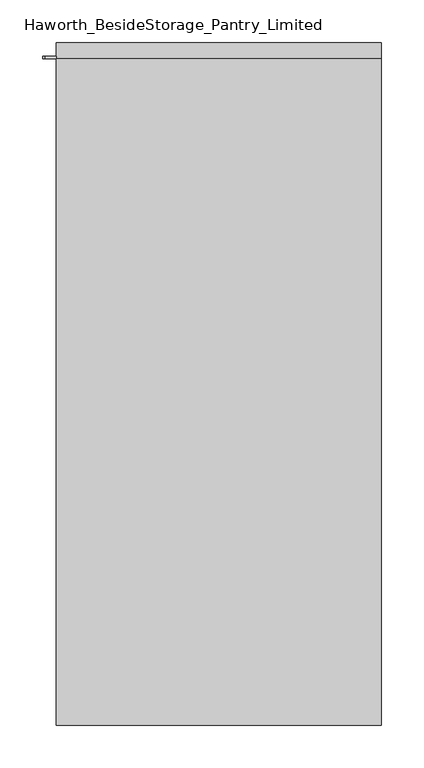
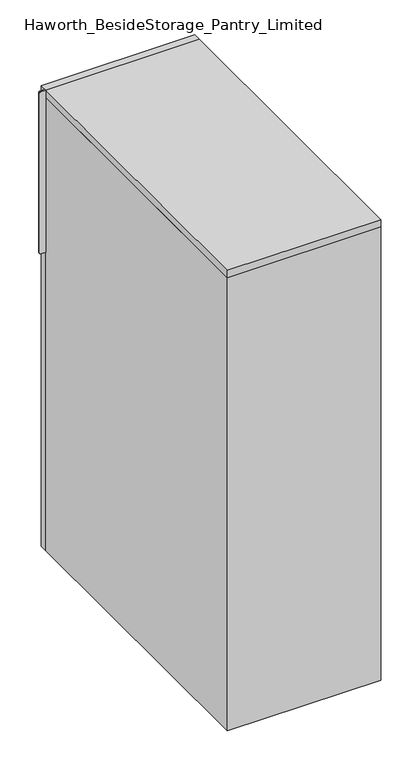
"""IFC4 building model written with IfcOpenShell, lengths in millimetres: furniture geometry, Haworth_BesideStorage_Pantry_Limited : 31.5d 15w 48h."""

from ifc_helpers import new_model, si_unit, point, frame, frame_2d, origin, place, context, project, spatial, polyline, circle_curve, trimmed, segment, composite_curve, outline, extrude, source, transform, mapped, element, save


def haworth_besidestorage_pantry_limited_d58f22f9(model_context):
    return source(origin(), model_context, "Body", "SweptSolid", [
        extrude(outline(composite_curve([segment(polyline([(1219.2, -190.5), (1219.2, -203.2)]), True, "CONTINUOUS"), segment(trimmed(circle_curve(frame_2d((1216.025, -203.2)), 3.175), [point((1219.2, -203.2))], [point((1216.025, -206.375))], False, "CARTESIAN"), True, "CONTINUOUS"), segment(polyline([(1216.025, -206.375), (796.925, -206.375)]), True, "CONTINUOUS"), segment(trimmed(circle_curve(frame_2d((796.925, -203.2)), 3.175), [point((796.925, -206.375))], [point((793.75, -203.2))], False, "CARTESIAN"), True, "CONTINUOUS"), segment(polyline([(793.75, -203.2), (793.75, -190.5), (1219.2, -190.5)]), True, "CONTINUOUS")], self_intersect=False)), frame((0.0, 781.05, 0.0), z_axis=(0.0, 1.0, 0.0), x_axis=(0.0, 0.0, 1.0)), (0.0, 0.0, 1.0), 3.175),
        extrude(outline(polyline([(190.5, 0.0), (-190.5, 0.0), (-190.5, 781.05), (190.5, 781.05), (190.5, 0.0)])), frame((0.0, 0.0, 1200.15), z_axis=(0.0, 0.0, 1.0), x_axis=(1.0, 0.0, 0.0)), (0.0, 0.0, 1.0), 19.05),
        extrude(outline(polyline([(171.45, 19.05), (-171.45, 19.05), (-171.45, 781.05), (171.45, 781.05), (171.45, 19.05)])), frame((0.0, 0.0, 9.525), z_axis=(0.0, 0.0, 1.0), x_axis=(1.0, 0.0, 0.0)), (0.0, 0.0, 1.0), 19.05),
        extrude(outline(polyline([(190.5, 0.0), (-190.5, 0.0), (-190.5, 781.05), (-171.45, 781.05), (-171.45, 19.05), (171.45, 19.05), (171.45, 781.05), (190.5, 781.05), (190.5, 0.0)])), frame((0.0, 0.0, 9.525), z_axis=(0.0, 0.0, 1.0), x_axis=(1.0, 0.0, 0.0)), (0.0, 0.0, 1.0), 1190.625),
        extrude(outline(polyline([(190.5, 800.1), (190.5, 781.05), (-190.5, 781.05), (-190.5, 800.1), (190.5, 800.1)])), frame((0.0, 0.0, 9.525), z_axis=(0.0, 0.0, 1.0), x_axis=(1.0, 0.0, 0.0)), (0.0, 0.0, 1.0), 1209.675),
    ])


if __name__ == "__main__":
    model = new_model("IFC4")
    model_context = context("Model", 3, world=origin())
    ifc_project = project(units=[si_unit("LENGTHUNIT", "METRE", prefix="MILLI")], contexts=[model_context])
    site = spatial("IfcSite", under=ifc_project)
    building = spatial("IfcBuilding", under=site)
    placement = place(None, origin())
    haworth_besidestorage_pantry_limited_shape = haworth_besidestorage_pantry_limited_d58f22f9(model_context)
    element("IfcFurniture", 1, ObjectType="Haworth_BesideStorage_Pantry_Limited : 31.5d 15w 48h", at=placement, inside=building, context=model_context, shape_type="MappedRepresentation", body=[
        mapped(haworth_besidestorage_pantry_limited_shape, transform((0.0, 0.0, 0.0), x_axis=(1.0, 0.0, 0.0), y_axis=(0.0, 1.0, 0.0), z_axis=(0.0, 0.0, 1.0))),
    ])
    save(model, "model.ifc")
